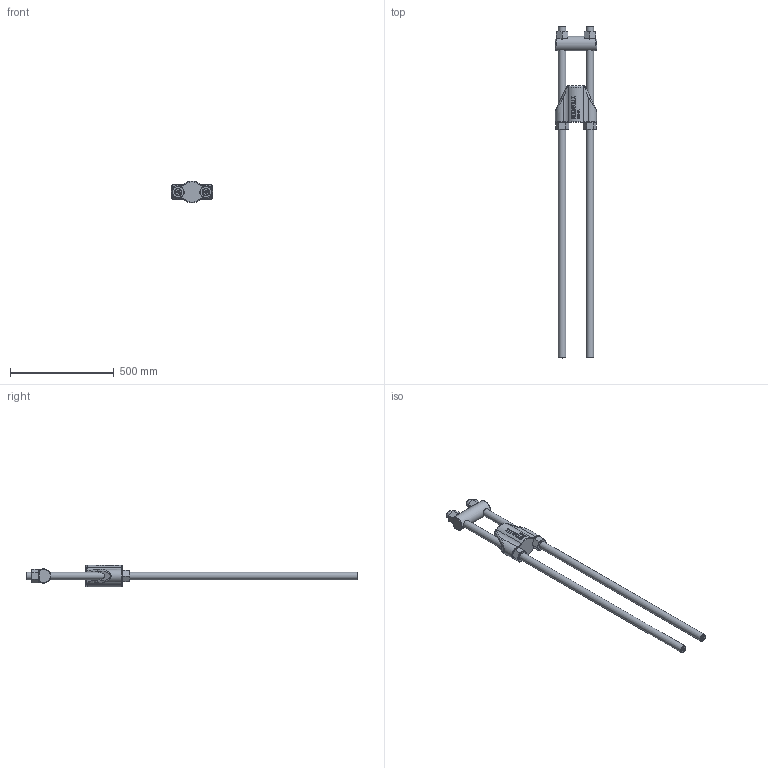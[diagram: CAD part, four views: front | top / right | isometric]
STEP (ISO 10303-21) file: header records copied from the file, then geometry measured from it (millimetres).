
FILE_DESCRIPTION(/* description */ (''),/* implementation_level */ '2;1');
FILE_NAME(/* name */ 'D:\Clienti\Redaelli (inventor)\BRC\STEP\Arrangemet\BRC032 72 111 0.stp',/* time_stamp */ '2021-05-08T08:23:00+02:00',/* author */ ('fabri'),/* organization */ (''),/* preprocessor_version */ 'ST-DEVELOPER v16.13',/* originating_system */ 'Autodesk Inventor 2018',/* authorisation */ '');
FILE_SCHEMA (('AUTOMOTIVE_DESIGN { 1 0 10303 214 3 1 1 }'));
Length unit declared in the file: millimetre
Products named in the file (5): BRC020 72 111 0; BRC020 71 112 0; BRC020 71 114 0_ROD; BRC020 71 113 0; BRC020 71 114 0_NUT
Assembly tree (8 placements, depth 2):
  BRC020 72 111 0
    BRC020 71 112 0
    BRC020 71 114 0_ROD  x2
    BRC020 71 113 0
    BRC020 71 114 0_NUT  x4
Bounding box: 198 x 1600 x 104.73 mm (x, y, z)
Volume: 5958368.2 mm3; surface area: 599086.4 mm2
Topology: 8 solids, 8 shells, 1626 faces, 4356 edges, 2872 vertices
Faces by surface type: plane 750, bspline 743, cone 62, cylinder 47, torus 20, sphere 4
Full cylindrical faces by diameter (mm): 32.752 x4, 36 x2, 38 x4, 70 x1
Entity records: 31805 total; most frequent: CARTESIAN_POINT 12342, ORIENTED_EDGE 4682, DIRECTION 2705, EDGE_CURVE 2341, VERTEX_POINT 1550, LINE 1281, VECTOR 1281, EDGE_LOOP 969
